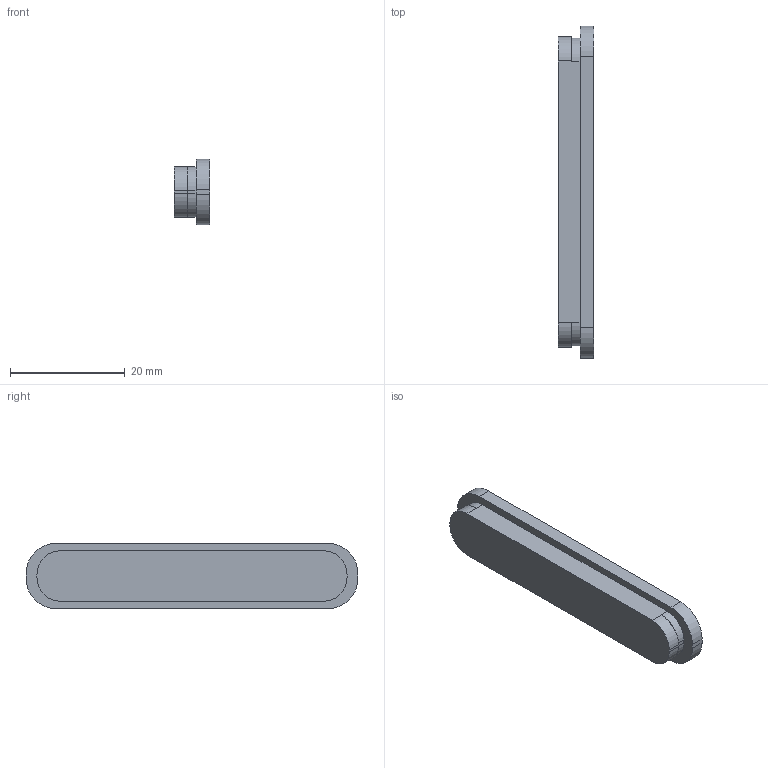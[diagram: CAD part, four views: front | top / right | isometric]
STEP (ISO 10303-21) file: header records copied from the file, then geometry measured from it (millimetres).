
FILE_DESCRIPTION(/* description */ (''),/* implementation_level */ '2;1');
FILE_NAME(/* name */ '03_Talk.step',/* time_stamp */ '2026-09-16T19:15:02-07:00',/* author */ (''),/* organization */ (''),/* preprocessor_version */ 'ST-DEVELOPER v20.1',/* originating_system */ 'Autodesk Translation Framework v15.8.0.0',/* authorisation */ '');
FILE_SCHEMA (('AUTOMOTIVE_DESIGN { 1 0 10303 214 3 1 1 }'));
Length unit declared in the file: centimetre
Products named in the file (1): 2026-09-16-19-15-02-877
Bounding box: 6.2 x 57.8 x 11.4 mm (x, y, z)
Volume: 3267.5 mm3; surface area: 2034.5 mm2
Topology: 1 solids, 1 shells, 27 faces, 72 edges, 48 vertices
Faces by surface type: plane 15, cylinder 12
Entity records: 890 total; most frequent: DIRECTION 152, CARTESIAN_POINT 148, ORIENTED_EDGE 144, EDGE_CURVE 72, AXIS2_PLACEMENT_3D 52, LINE 48, VECTOR 48, VERTEX_POINT 48
